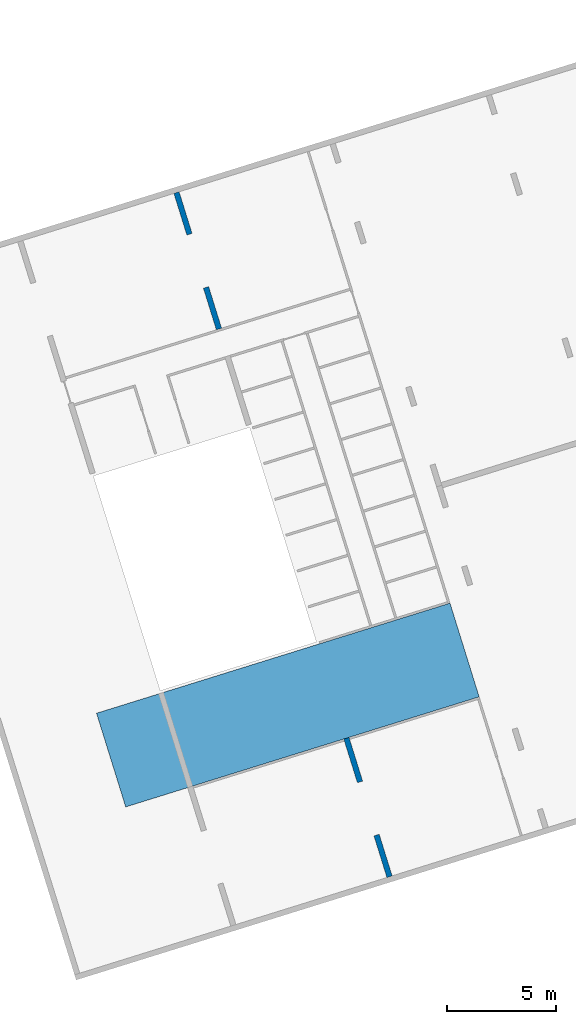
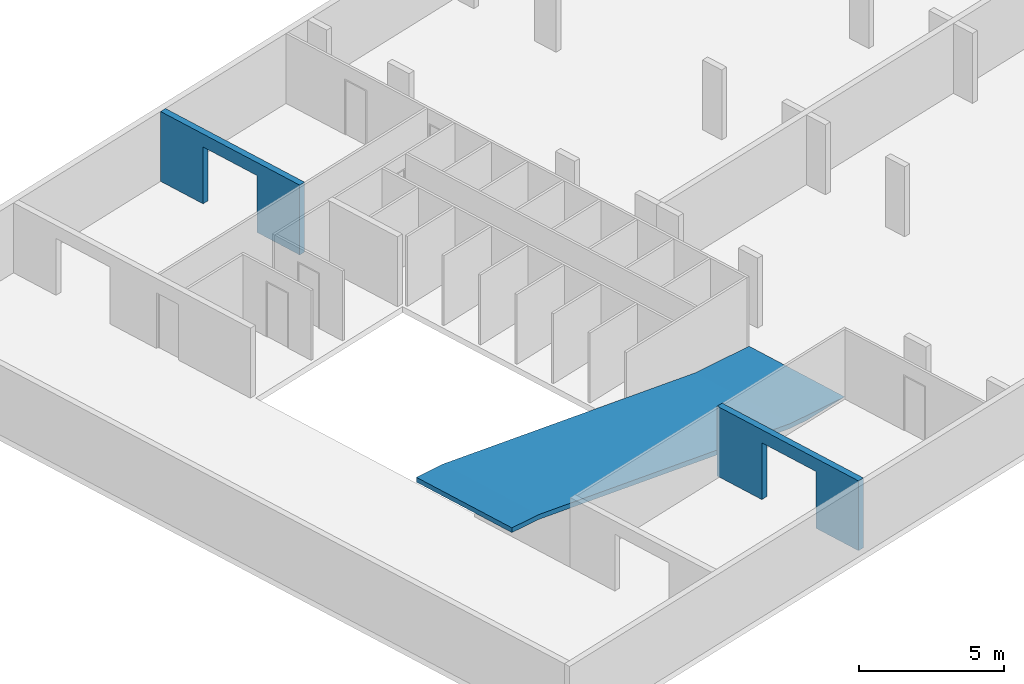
# One storey, part 3 of 4: 2 walls, 1 ramp, 2 openings.
"""IFC4 building model written with IfcOpenShell, lengths in metres."""

from ifc_helpers import new_model, entity, si_unit, converted_unit, direction, frame, origin, place, context, subcontext, project, spatial, indexed_curve, outline, extrude, polygons, material, type_object, element, save


model = new_model("IFC4")

# Units and contexts
model_context = context("Model", 3, precision=1e-05, world=origin(), true_north=direction((6.12323399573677e-17, 1.0)))
body_context = subcontext(model_context, "Body", "Model", "MODEL_VIEW")
ifc_project = project(units=[si_unit("LENGTHUNIT", "METRE"), si_unit("AREAUNIT", "SQUARE_METRE"), si_unit("VOLUMEUNIT", "CUBIC_METRE"), converted_unit("PLANEANGLEUNIT", "DEGREE", entity("IfcPlaneAngleMeasure", 0.0174532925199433), si_unit("PLANEANGLEUNIT", "RADIAN"), dimensions=[0, 0, 0, 0, 0, 0, 0])], contexts=[model_context])

# Site, building, storey
site_placement = place(None, frame((13.1347999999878, 11.9886000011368, 0.0), z_axis=(0.0, 0.0, 1.0), x_axis=(0.954770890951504, 0.297342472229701, 0.0)))
site = spatial("IfcSite", under=ifc_project, at=site_placement, Name="Schiehaven", CompositionType="ELEMENT")
building_placement = place(site_placement, origin())
building = spatial("IfcBuilding", under=site, at=building_placement, Name="VORM huis", CompositionType="ELEMENT")
storey_placement = place(building_placement, frame((0.0, 0.0, -3.2)))
storey = spatial("IfcBuildingStorey", under=building, at=storey_placement, Name="-1 kelder", CompositionType="ELEMENT", Elevation=-3.2)

# Wall, opening
ifc_material = material(Name="beton_gewapend_ihw", Category="Miscellaneous")
wall_type = type_object("IfcWallType", Name="Basic Wall:28_WA_skelet_wand 250mm_gen", PredefinedType="STANDARD")
wall_1_placement = place(storey_placement, frame((20.0, 7.27500000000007, 0.0), z_axis=(0.0, 0.0, 1.0), x_axis=(0.0, -1.0, 0.0)))
wall_1 = element("IfcWall", 1, at=wall_1_placement, inside=storey, type_object=wall_type, material=ifc_material, Name="Constructieve wand", ObjectType="Wand", PredefinedType="NOTDEFINED", context=body_context, shape_type="Tessellation", body=[
    polygons([(6.65000000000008, -0.124999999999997, 0.0), (6.65000000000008, -0.124999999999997, 2.95), (1.08286712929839e-15, -0.124999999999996, 2.95), (1.08286712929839e-15, -0.124999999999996, 0.0), (2.09999999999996, -0.124999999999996, 0.0), (2.09999999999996, -0.124999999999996, 2.4), (4.6500000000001, -0.124999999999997, 2.4), (4.6500000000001, -0.124999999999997, 0.0), (6.65000000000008, 0.125000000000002, 2.95), (6.65000000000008, 0.125000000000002, 0.0), (4.6500000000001, 0.125000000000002, 0.0), (4.6500000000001, 0.125000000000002, 2.4), (2.09999999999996, 0.125000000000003, 2.4), (2.09999999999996, 0.125000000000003, 0.0), (-1.08286712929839e-15, 0.125000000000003, 0.0), (-1.08286712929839e-15, 0.125000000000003, 2.95)], [[[1, 2, 3, 4, 5, 6, 7, 8]], [[9, 10, 11, 12, 13, 14, 15, 16]], [[4, 15, 14, 5]], [[3, 2, 9, 16]], [[4, 3, 16, 15]], [[2, 1, 10, 9]], [[6, 13, 12, 7]], [[13, 6, 5, 14]], [[7, 12, 11, 8]], [[10, 1, 8, 11]]], closed=True),
])
opening_1_placement = place(wall_1_placement, origin())
element("IfcOpeningElement", 2, at=opening_1_placement, cuts=wall_1, Name="Constructieve wand", PredefinedType="OPENING", context=body_context, shape_type="SweptSolid", body=[
    extrude(outline(indexed_curve([(-1.2, -1.27500000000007), (1.2, -1.27500000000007), (1.2, 1.27500000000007), (-1.2, 1.27500000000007), (-1.2, -1.27500000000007)], self_intersect=False)), frame((3.37500000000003, -0.125000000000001, 1.2), z_axis=(0.0, 1.0, 0.0), x_axis=(0.0, 0.0, -1.0)), (0.0, 0.0, 1.0), 0.250000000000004),
])

wall_2_placement = place(storey_placement, frame((20.0, 26.9249999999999, 0.0), z_axis=(0.0, 0.0, 1.0), x_axis=(0.0, 1.0, 0.0)))
wall_2 = element("IfcWall", 3, at=wall_2_placement, inside=storey, type_object=wall_type, material=ifc_material, Name="Constructieve wand", ObjectType="Wand", PredefinedType="NOTDEFINED", context=body_context, shape_type="Tessellation", body=[
    polygons([(6.55000000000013, -0.124999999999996, 0.0), (6.55000000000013, -0.124999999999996, 2.95), (0.0, -0.124999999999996, 2.95), (0.0, -0.124999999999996, 0.0), (2.00000000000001, -0.124999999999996, 0.0), (2.00000000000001, -0.124999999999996, 2.4), (4.55000000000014, -0.124999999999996, 2.4), (4.55000000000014, -0.124999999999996, 0.0), (6.55000000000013, 0.125000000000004, 2.95), (6.55000000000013, 0.125000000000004, 0.0), (4.55000000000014, 0.125000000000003, 0.0), (4.55000000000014, 0.125000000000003, 2.4), (2.00000000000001, 0.125000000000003, 2.4), (2.00000000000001, 0.125000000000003, 0.0), (0.0, 0.125000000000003, 0.0), (0.0, 0.125000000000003, 2.95)], [[[1, 2, 3, 4, 5, 6, 7, 8]], [[9, 10, 11, 12, 13, 14, 15, 16]], [[4, 15, 14, 5]], [[3, 2, 9, 16]], [[6, 13, 12, 7]], [[13, 6, 5, 14]], [[7, 12, 11, 8]], [[2, 1, 10, 9]], [[4, 3, 16, 15]], [[10, 1, 8, 11]]], closed=True),
])
opening_2_placement = place(wall_2_placement, origin())
element("IfcOpeningElement", 4, at=opening_2_placement, cuts=wall_2, Name="Constructieve wand", PredefinedType="OPENING", context=body_context, shape_type="SweptSolid", body=[
    extrude(outline(indexed_curve([(-1.2, -1.27500000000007), (1.2, -1.27500000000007), (1.2, 1.27500000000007), (-1.2, 1.27500000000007), (-1.2, -1.27500000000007)], self_intersect=False)), frame((3.27500000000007, -0.125, 1.2), z_axis=(0.0, 1.0, 0.0), x_axis=(0.0, 0.0, -1.0)), (0.0, 0.0, 1.0), 0.250000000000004),
])

# Ramp
ramp_type = type_object("IfcRampType", Name="24_GM_TLB_hellingbaan:Stalling", PredefinedType="NOTDEFINED")
ramp_placement = place(storey_placement, origin())
element("IfcRamp", 5, at=ramp_placement, inside=storey, type_object=ramp_type, material=ifc_material, Name="Hellingbaan", ObjectType="Vloer", PredefinedType="NOTDEFINED", context=body_context, shape_type="SweptSolid", body=[
    extrude(outline(indexed_curve([(-5.31245707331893, 0.0995774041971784), (-6.68969962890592, -0.0468054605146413), (-6.64742363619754, -0.243438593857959), (-6.18758312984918, -0.194563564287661), (-5.30185823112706, -0.100422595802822), (7.83285199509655, -0.100422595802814), (8.72665965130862, -0.00542253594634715), (10.5767382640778, 0.39234313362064), (7.82225315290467, 0.0995774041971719), (-4.81948136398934, 0.0995774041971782), (-5.31245707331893, 0.0995774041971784)], self_intersect=False)), frame((15.9520850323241, 7.27500000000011, 1.83961110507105), z_axis=(0.0, -1.0, 0.0), x_axis=(0.977659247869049, 0.0, -0.21019608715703)), (0.0, 0.0, -1.0), 4.5),
])

save(model, "model.ifc")
